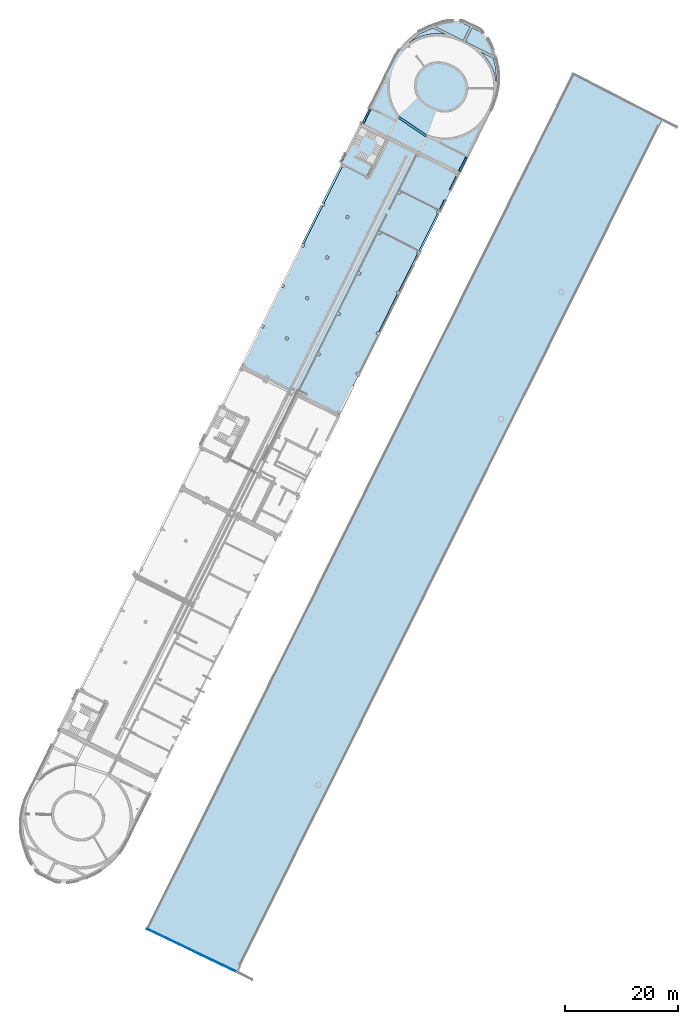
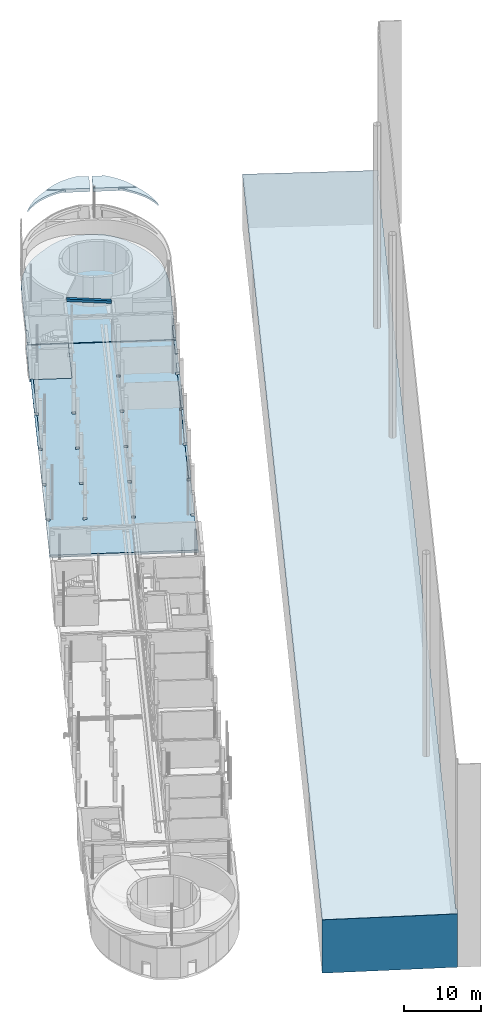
# One storey, part 3 of 91: 18 slabs, 1 wall, 10 openings, 1 element without a shape of its own.
"""IFC2X3 building model written with IfcOpenShell, lengths in metres."""

from ifc_helpers import new_model, entity, si_unit, converted_unit, derived_unit, direction, frame, frame_2d, origin, origin_2d_with_axis, place, context, subcontext, project, spatial, polyline, circle_curve, parameter, trimmed, segment, composite_curve, rectangle, circle, outline, extrude, material, layer, layer_set, layer_usage, type_object, element, aggregate, save


model = new_model("IFC2X3")

# Units and contexts
model_context = context("Model", 3, precision=1e-05, world=origin(), true_north=direction((0.894925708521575, 0.446215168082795)))
context_of_model = context(None, 3, precision=1e-05, world=origin(), true_north=direction((0.894925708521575, 0.446215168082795)))
body_context = subcontext(model_context, "Body", "Model", "MODEL_VIEW")
ifc_project = project(units=[si_unit("LENGTHUNIT", "METRE"), si_unit("AREAUNIT", "SQUARE_METRE"), si_unit("VOLUMEUNIT", "CUBIC_METRE"), converted_unit("PLANEANGLEUNIT", "DEGREE", entity("IfcRatioMeasure", 0.0174532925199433), si_unit("PLANEANGLEUNIT", "RADIAN"), dimensions=[0, 0, 0, 0, 0, 0, 0]), si_unit("MASSUNIT", "GRAM", prefix="KILO"), si_unit("TIMEUNIT", "SECOND"), si_unit("FREQUENCYUNIT", "HERTZ"), si_unit("THERMODYNAMICTEMPERATUREUNIT", "DEGREE_CELSIUS"), derived_unit("THERMALTRANSMITTANCEUNIT", [(si_unit("MASSUNIT", "GRAM", prefix="KILO"), 1), (si_unit("THERMODYNAMICTEMPERATUREUNIT", "KELVIN"), -1), (si_unit("TIMEUNIT", "SECOND"), -3)]), derived_unit("VOLUMETRICFLOWRATEUNIT", [(si_unit("LENGTHUNIT", "METRE"), 3), (si_unit("TIMEUNIT", "SECOND"), -1)]), si_unit("ELECTRICCURRENTUNIT", "AMPERE"), si_unit("ELECTRICVOLTAGEUNIT", "VOLT"), si_unit("POWERUNIT", "WATT"), si_unit("FORCEUNIT", "NEWTON", prefix="KILO"), si_unit("ILLUMINANCEUNIT", "LUX"), si_unit("LUMINOUSFLUXUNIT", "LUMEN"), si_unit("LUMINOUSINTENSITYUNIT", "CANDELA"), si_unit("PRESSUREUNIT", "PASCAL")], contexts=[model_context, context_of_model])

# Site, building, storey
site_placement = place(None, frame((218.228324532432, 584.720189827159, 0.0), z_axis=(0.0, 0.0, 1.0), x_axis=(0.446215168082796, 0.894925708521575, 0.0)))
site = spatial("IfcSite", under=ifc_project, at=site_placement, Name="Default", CompositionType="ELEMENT")
building_placement = place(site_placement, origin())
building = spatial("IfcBuilding", under=site, at=building_placement, CompositionType="ELEMENT")
storey_placement = place(building_placement, origin())
storey = spatial("IfcBuildingStorey", under=building, at=storey_placement, Name="0 - Piano Terra", CompositionType="ELEMENT", Elevation=0.0)

# Slab
ifc_material_1 = material(Name="Default - Calcestruzzo")
ifc_layer_1 = layer(ifc_material_1, 0.1)
ifc_material_2 = material(Name="Calcestruzzo")
ifc_layer_2 = layer(ifc_material_2, 0.3)
ifc_layer_set_1 = layer_set([ifc_layer_1, ifc_layer_2], Name="Pavimento:In opera Cementizio - 40 cm")
ifc_layer_usage_1 = layer_usage(ifc_layer_set_1, "AXIS3", "POSITIVE", 0.0)
slab_1_placement = place(storey_placement, origin())
element("IfcSlab", 1, at=slab_1_placement, inside=storey, material=ifc_layer_usage_1, Name="Pavimento:In opera Cementizio - 40 cm", ObjectType="Pavimento:In opera Cementizio - 40 cm", PredefinedType="FLOOR", context=body_context, shape_type="SweptSolid", body=[
    extrude(outline(composite_curve([segment(polyline([(-9.01889683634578, -14.7948808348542), (10.3011031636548, -14.7948808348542)]), True, "CONTINUOUS"), segment(polyline([(10.3011031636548, -14.7948808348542), (10.2893573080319, -11.7248808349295)]), True, "CONTINUOUS"), segment(polyline([(10.2893573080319, -11.7248808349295), (10.3073836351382, -1.83244123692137)]), True, "CONTINUOUS"), segment(trimmed(circle_curve(frame_2d((-3.3255732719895, -2.38711425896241), x_axis=(0.999173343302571, 0.0406525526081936)), 13.6442360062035), [parameter(0.0)], [parameter(27.3171216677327)], True, "PARAMETER"), True, "CONTINUOUS"), segment(trimmed(circle_curve(frame_2d((-13.5943328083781, -11.968281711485), x_axis=(0.804597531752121, 0.59382052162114)), 27.5004859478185), [parameter(0.0)], [parameter(9.19725186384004)], True, "PARAMETER"), True, "CONTINUOUS"), segment(trimmed(circle_curve(frame_2d((-0.688846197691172, 0.095445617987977), x_axis=(0.640123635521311, 0.768271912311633)), 9.88360560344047), [parameter(0.0)], [parameter(22.9812181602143)], True, "PARAMETER"), True, "CONTINUOUS"), segment(polyline([(2.17110316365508, 9.55622515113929), (-0.888896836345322, 9.55622515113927)]), True, "CONTINUOUS"), segment(trimmed(circle_curve(frame_2d((1.73515179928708, 0.930385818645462), x_axis=(-0.29103911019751, 0.956711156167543)), 9.01613750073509), [parameter(0.0)], [parameter(27.6905051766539)], True, "PARAMETER"), True, "CONTINUOUS"), segment(trimmed(circle_curve(frame_2d((7.06228266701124, -5.23909267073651), x_axis=(-0.679516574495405, 0.733660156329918)), 17.1578390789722), [parameter(0.0)], [parameter(12.4245865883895)], True, "PARAMETER"), True, "CONTINUOUS"), segment(trimmed(circle_curve(frame_2d((3.22910405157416, -2.19182218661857), x_axis=(-0.835915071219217, 0.54885881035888)), 12.2753762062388), [parameter(0.0)], [parameter(7.874230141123)], True, "PARAMETER"), True, "CONTINUOUS"), segment(trimmed(circle_curve(frame_2d((3.18382790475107, -1.81184527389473), x_axis=(-0.914408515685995, 0.40479262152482)), 12.0757504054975), [parameter(0.0)], [parameter(17.8644285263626)], True, "PARAMETER"), True, "CONTINUOUS"), segment(trimmed(circle_curve(frame_2d((14.2256108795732, -3.85800120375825), x_axis=(-0.989839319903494, 0.142190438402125)), 23.2876977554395), [parameter(0.0)], [parameter(4.68455411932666)], True, "PARAMETER"), True, "CONTINUOUS"), segment(polyline([(-9.01889683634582, -2.44035251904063), (-9.01889683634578, -14.7948808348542)]), True, "CONTINUOUS")], self_intersect=False)), frame((73.760817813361, -4.18218215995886, 0.0), z_axis=(0.0, 0.0, -1.0), x_axis=(0.0, 1.0, 0.0)), (0.0, 0.0, 1.0), 0.4),
])

# Slab, openings
ifc_layer_usage_2 = layer_usage(ifc_layer_set_1, "AXIS3", "POSITIVE", 0.0)
slab_2_placement = place(storey_placement, frame((11.1942149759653, -13.2010789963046, -0.4)))
slab_2 = element("IfcSlab", 2, at=slab_2_placement, inside=storey, material=ifc_layer_usage_2, Name="Pavimento:In opera Cementizio - 40 cm", ObjectType="Pavimento:In opera Cementizio - 40 cm", PredefinedType="FLOOR", context=body_context, shape_type="SweptSolid", body=[
    extrude(outline(polyline([(-23.8208610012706, 4.34000000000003), (-23.8208610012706, -9.66000000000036), (-16.4032670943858, -9.66000000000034), (-16.4032670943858, -9.16000000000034), (-15.8832670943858, -9.16000000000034), (-15.8832670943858, -9.66000000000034), (-8.40452638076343, -9.66000000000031), (-8.40452638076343, -9.16000000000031), (-7.88452638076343, -9.16000000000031), (-7.88452638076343, -9.66000000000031), (-0.41142013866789, -9.66000000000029), (-0.41142013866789, -9.16000000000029), (0.108579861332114, -9.16000000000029), (0.108579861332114, -9.66000000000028), (7.58603086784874, -9.66000000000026), (7.58603086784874, -9.16000000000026), (8.10603086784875, -9.16000000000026), (8.10603086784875, -9.66000000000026), (15.5792464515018, -9.66000000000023), (15.5792464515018, -9.16000000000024), (16.0992464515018, -9.16000000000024), (16.0992464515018, -9.66000000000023), (23.8208610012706, -9.66000000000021), (23.8208610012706, 9.66000000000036), (16.0992464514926, 9.66000000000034), (16.0992464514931, 9.16000000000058), (15.5792464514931, 9.16000000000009), (15.5792464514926, 9.66000000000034), (8.10603086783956, 9.66000000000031), (8.10603086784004, 9.16000000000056), (7.58603086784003, 9.16000000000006), (7.58603086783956, 9.66000000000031), (0.108579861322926, 9.66000000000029), (0.108579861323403, 9.16000000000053), (-0.4114201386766, 9.16000000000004), (-0.411420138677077, 9.66000000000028), (-7.88452638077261, 9.66000000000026), (-7.88452638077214, 9.16000000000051), (-8.40452638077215, 9.16000000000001), (-8.40452638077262, 9.66000000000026), (-15.9908610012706, 9.66000000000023), (-15.9908610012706, 4.34000000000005), (-23.8208610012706, 4.34000000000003)])), frame((23.8208610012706, 9.66000000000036, 0.4), z_axis=(0.0, 0.0, -1.0), x_axis=(-1.0, 0.0, 0.0)), (0.0, 0.0, 1.0), 0.4),
])
opening_1_placement = place(slab_2_placement, frame((7.98161454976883, 7.95000000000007, 0.4)))
element("IfcOpeningElement", 3, at=opening_1_placement, cuts=slab_2, Name="Pavimento:In opera Cementizio - 40 cm:2", ObjectType="Opening", context=body_context, shape_type="SweptSolid", body=[
    extrude(rectangle(XDim=0.500000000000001, YDim=0.499999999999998, at=origin_2d_with_axis()), frame((0.0, 0.0, 0.0), z_axis=(0.0, 0.0, -1.0), x_axis=(-1.0, 0.0, 0.0)), (0.0, 0.0, 1.0), 0.4),
])
opening_2_placement = place(slab_2_placement, frame((15.9748301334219, 7.95000000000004, 0.4)))
element("IfcOpeningElement", 4, at=opening_2_placement, cuts=slab_2, Name="Pavimento:In opera Cementizio - 40 cm:3", ObjectType="Opening", context=body_context, shape_type="SweptSolid", body=[
    extrude(rectangle(XDim=0.499999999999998, YDim=0.499999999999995, at=origin_2d_with_axis()), frame((0.0, 0.0, 0.0), z_axis=(0.0, 0.0, -1.0), x_axis=(0.0, 1.0, 0.0)), (0.0, 0.0, 1.0), 0.4),
])
opening_3_placement = place(slab_2_placement, frame((23.9722811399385, 7.95000000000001, 0.4)))
element("IfcOpeningElement", 5, at=opening_3_placement, cuts=slab_2, Name="Pavimento:In opera Cementizio - 40 cm:4", ObjectType="Opening", context=body_context, shape_type="SweptSolid", body=[
    extrude(rectangle(XDim=0.499999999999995, YDim=0.499999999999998, at=origin_2d_with_axis()), frame((0.0, 0.0, 0.0), z_axis=(0.0, 0.0, -1.0), x_axis=(-1.0, 0.0, 0.0)), (0.0, 0.0, 1.0), 0.4),
])
opening_4_placement = place(slab_2_placement, frame((31.9653873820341, 7.94999999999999, 0.4)))
element("IfcOpeningElement", 6, at=opening_4_placement, cuts=slab_2, Name="Pavimento:In opera Cementizio - 40 cm:5", ObjectType="Opening", context=body_context, shape_type="SweptSolid", body=[
    extrude(rectangle(XDim=0.500000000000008, YDim=0.499999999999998, at=origin_2d_with_axis()), frame((0.0, 0.0, 0.0), z_axis=(0.0, 0.0, -1.0), x_axis=(-1.0, 0.0, 0.0)), (0.0, 0.0, 1.0), 0.4),
])
opening_5_placement = place(slab_2_placement, frame((39.9641280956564, 7.94999999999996, 0.4)))
element("IfcOpeningElement", 7, at=opening_5_placement, cuts=slab_2, Name="Pavimento:In opera Cementizio - 40 cm:6", ObjectType="Opening", context=body_context, shape_type="SweptSolid", body=[
    extrude(rectangle(XDim=0.499999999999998, YDim=0.500000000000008, at=origin_2d_with_axis()), frame((0.0, 0.0, 0.0), z_axis=(0.0, 0.0, -1.0), x_axis=(0.0, 1.0, 0.0)), (0.0, 0.0, 1.0), 0.4),
])
opening_6_placement = place(slab_2_placement, frame((31.9653873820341, 14.2500000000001, 0.4)))
element("IfcOpeningElement", 8, at=opening_6_placement, cuts=slab_2, Name="Pavimento:In opera Cementizio - 40 cm:7", ObjectType="Opening", context=body_context, shape_type="SweptSolid", body=[
    extrude(rectangle(XDim=0.500000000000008, YDim=0.5, at=origin_2d_with_axis()), frame((0.0, 0.0, 0.0), z_axis=(0.0, 0.0, -1.0), x_axis=(-1.0, 0.0, 0.0)), (0.0, 0.0, 1.0), 0.4),
])
opening_7_placement = place(slab_2_placement, frame((23.9722811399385, 14.2500000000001, 0.4)))
element("IfcOpeningElement", 9, at=opening_7_placement, cuts=slab_2, Name="Pavimento:In opera Cementizio - 40 cm:8", ObjectType="Opening", context=body_context, shape_type="SweptSolid", body=[
    extrude(rectangle(XDim=0.499999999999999, YDim=0.5, at=origin_2d_with_axis()), frame((0.0, 0.0, 0.0), z_axis=(0.0, 0.0, -1.0), x_axis=(-1.0, 0.0, 0.0)), (0.0, 0.0, 1.0), 0.4),
])
opening_8_placement = place(slab_2_placement, frame((15.9748301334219, 14.2500000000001, 0.4)))
element("IfcOpeningElement", 10, at=opening_8_placement, cuts=slab_2, Name="Pavimento:In opera Cementizio - 40 cm:9", ObjectType="Opening", context=body_context, shape_type="SweptSolid", body=[
    extrude(rectangle(XDim=0.499999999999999, YDim=0.5, at=origin_2d_with_axis()), frame((0.0, 0.0, 0.0), z_axis=(0.0, 0.0, -1.0), x_axis=(-1.0, 0.0, 0.0)), (0.0, 0.0, 1.0), 0.4),
])
opening_9_placement = place(slab_2_placement, frame((7.98161454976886, 14.2500000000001, 0.4)))
element("IfcOpeningElement", 11, at=opening_9_placement, cuts=slab_2, Name="Pavimento:In opera Cementizio - 40 cm:10", ObjectType="Opening", context=body_context, shape_type="SweptSolid", body=[
    extrude(rectangle(XDim=0.5, YDim=0.499999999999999, at=origin_2d_with_axis()), frame((0.0, 0.0, 0.0), z_axis=(0.0, 0.0, -1.0), x_axis=(0.0, -1.0, 0.0)), (0.0, 0.0, 1.0), 0.4),
])

# Slabs
ifc_layer_3 = layer(ifc_material_2, 0.3)
ifc_layer_set_2 = layer_set([ifc_layer_3], Name="Pavimento:In opera Cementizio - 30 cm")
ifc_layer_usage_3 = layer_usage(ifc_layer_set_2, "AXIS3", "POSITIVE", 0.0)
slab_3_placement = place(storey_placement, origin())
element("IfcSlab", 12, at=slab_3_placement, inside=storey, material=ifc_layer_usage_3, Name="Pavimento:In opera Cementizio - 30 cm", ObjectType="Pavimento:In opera Cementizio - 30 cm", PredefinedType="FLOOR", context=body_context, shape_type="SweptSolid", body=[
    extrude(outline(composite_curve([segment(polyline([(0.178875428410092, -1.45610155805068), (2.74937511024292, -1.45610155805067)]), True, "CONTINUOUS"), segment(trimmed(circle_curve(frame_2d((6.22425697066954, 10.6776146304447), x_axis=(-0.275314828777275, -0.961354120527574)), 12.6214845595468), [parameter(356.002577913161)], [parameter(0.0)], True, "PARAMETER"), False, "CONTINUOUS"), segment(trimmed(circle_curve(frame_2d((5.47235751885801, 7.24042450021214), x_axis=(-0.389275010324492, -0.921121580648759)), 9.14620571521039), [parameter(337.984918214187)], [parameter(0.0)], True, "PARAMETER"), False, "CONTINUOUS"), segment(trimmed(circle_curve(frame_2d((5.86635005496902, 7.1446360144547), x_axis=(-0.731900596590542, -0.681411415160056)), 9.36302873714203), [parameter(344.402865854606)], [parameter(0.0)], True, "PARAMETER"), False, "CONTINUOUS"), segment(trimmed(circle_curve(frame_2d((10.1187084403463, 7.01924736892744), x_axis=(-0.948959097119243, -0.315399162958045)), 13.2442360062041), [parameter(0.0)], [parameter(11.1524485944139)], True, "PARAMETER"), True, "CONTINUOUS"), segment(trimmed(circle_curve(frame_2d((20.3875453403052, 16.6004853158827), x_axis=(-0.804113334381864, -0.594476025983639)), 27.1003813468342), [parameter(0.0)], [parameter(5.30572090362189)], True, "PARAMETER"), True, "CONTINUOUS")], self_intersect=False)), frame((78.392950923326, 2.61095300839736, 9.64), z_axis=(0.0, 0.0, -1.0), x_axis=(0.0, -1.0, 0.0)), (0.0, 0.0, 1.0), 0.3),
])
ifc_layer_usage_4 = layer_usage(ifc_layer_set_2, "AXIS3", "POSITIVE", 0.0)
slab_4_placement = place(storey_placement, origin())
element("IfcSlab", 13, at=slab_4_placement, inside=storey, material=ifc_layer_usage_4, Name="Pavimento:In opera Cementizio - 30 cm", ObjectType="Pavimento:In opera Cementizio - 30 cm", PredefinedType="FLOOR", context=body_context, shape_type="SweptSolid", body=[
    extrude(outline(composite_curve([segment(polyline([(-3.24073570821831, -1.77684998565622), (-0.753347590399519, -1.77684998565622)]), True, "CONTINUOUS"), segment(trimmed(circle_curve(frame_2d((-13.1099581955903, 9.54744339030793), x_axis=(0.737231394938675, -0.67564034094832)), 16.7608307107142), [parameter(0.0)], [parameter(7.17351048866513)], True, "PARAMETER"), True, "CONTINUOUS"), segment(trimmed(circle_curve(frame_2d((-9.27584410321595, 6.50320686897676), x_axis=(0.828596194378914, -0.559846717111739)), 11.8753762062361), [parameter(0.0)], [parameter(8.60478970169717)], True, "PARAMETER"), True, "CONTINUOUS"), segment(trimmed(circle_curve(frame_2d((-9.23056795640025, 6.12322995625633), x_axis=(0.914594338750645, -0.404372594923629)), 11.6757504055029), [parameter(0.0)], [parameter(3.70317576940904)], True, "PARAMETER"), True, "CONTINUOUS"), segment(trimmed(circle_curve(frame_2d((-6.25839711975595, 6.7752652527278), x_axis=(0.863141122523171, -0.504962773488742)), 9.25578532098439), [parameter(345.022816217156)], [parameter(0.0)], True, "PARAMETER"), False, "CONTINUOUS"), segment(trimmed(circle_curve(frame_2d((-6.44332734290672, 7.97080263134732), x_axis=(0.652487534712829, -0.75779945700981)), 10.2602789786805), [parameter(337.458524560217)], [parameter(0.0)], True, "PARAMETER"), False, "CONTINUOUS")], self_intersect=False)), frame((78.0722024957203, -10.2289222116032, 9.64), z_axis=(0.0, 0.0, -1.0), x_axis=(0.0, -1.0, 0.0)), (0.0, 0.0, 1.0), 0.3),
])

# Slab, opening
ifc_material_3 = material(Name="Asfalto, bitume")
ifc_layer_4 = layer(ifc_material_3, 0.01)
ifc_material_4 = material(Name="Sabbia e Calcestruzzo")
ifc_layer_5 = layer(ifc_material_4, 0.18)
ifc_layer_6 = layer(ifc_material_2, 0.35)
ifc_layer_set_3 = layer_set([ifc_layer_4, ifc_layer_5, ifc_layer_6], Name="Pavimento:CA-caldana - 54 cm")
ifc_layer_usage_5 = layer_usage(ifc_layer_set_3, "AXIS3", "POSITIVE", 0.0)
slab_5_placement = place(storey_placement, frame((80.2490524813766, -9.36890352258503, 8.95)))
slab_5 = element("IfcSlab", 14, at=slab_5_placement, inside=storey, material=ifc_layer_usage_5, Name="Pavimento:CA-caldana - 54 cm", ObjectType="Pavimento:CA-caldana - 54 cm", PredefinedType="FLOOR", context=body_context, shape_type="SweptSolid", body=[
    extrude(outline(composite_curve([segment(polyline([(-1.29063946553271, 2.80891226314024), (-1.29063946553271, 1.48891226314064)]), True, "CONTINUOUS"), segment(polyline([(-1.29063946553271, 1.48891226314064), (-1.42936053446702, 1.48891226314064)]), True, "CONTINUOUS"), segment(trimmed(circle_curve(frame_2d((6.98720938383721, 4.11296089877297), x_axis=(-1.0, 0.0)), 8.81613750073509), [parameter(17.3160027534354)], [parameter(44.631099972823)], True, "PARAMETER"), True, "CONTINUOUS"), segment(trimmed(circle_curve(frame_2d((13.1566878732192, 9.44009176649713), x_axis=(-1.0, 0.0)), 16.9578390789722), [parameter(42.79520573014)], [parameter(46.246444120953)], True, "PARAMETER"), True, "CONTINUOUS"), segment(polyline([(1.42936053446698, -2.80891226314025), (1.42936053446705, 2.80891226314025)]), True, "CONTINUOUS"), segment(polyline([(1.42936053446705, 2.80891226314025), (-1.29063946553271, 2.80891226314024)]), True, "CONTINUOUS")], self_intersect=False)), frame((1.42936053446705, 2.80891226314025, 0.54), z_axis=(0.0, 0.0, -1.0), x_axis=(-1.0, 0.0, 0.0)), (0.0, 0.0, 1.0), 0.54),
])
opening_10_placement = place(slab_5_placement, frame((0.248528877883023, 5.47421070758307, 0.54)))
element("IfcOpeningElement", 15, at=opening_10_placement, cuts=slab_5, Name="Pavimento:CA-caldana - 54 cm:2", ObjectType="Opening", context=body_context, shape_type="SweptSolid", body=[
    extrude(circle(Radius=0.0600000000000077, at=origin_2d_with_axis()), frame((0.0, 0.0, 0.0), z_axis=(0.0, 0.0, -1.0), x_axis=(1.0, 0.0, 0.0)), (0.0, 0.0, 1.0), 0.54),
])

# Slabs
ifc_layer_usage_6 = layer_usage(ifc_layer_set_3, "AXIS3", "POSITIVE", 0.0)
slab_6_placement = place(storey_placement, origin())
element("IfcSlab", 16, at=slab_6_placement, inside=storey, material=ifc_layer_usage_6, Name="Pavimento:CA-caldana - 54 cm", ObjectType="Pavimento:CA-caldana - 54 cm", PredefinedType="FLOOR", context=body_context, shape_type="SweptSolid", body=[
    extrude(outline(composite_curve([segment(polyline([(-2.17395021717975, 1.55846670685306), (-2.17395021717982, -1.16153329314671)]), True, "CONTINUOUS"), segment(polyline([(-2.17395021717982, -1.16153329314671), (-0.83395021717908, -1.16153329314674)]), True, "CONTINUOUS"), segment(polyline([(-0.83395021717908, -1.16153329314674), (-0.833950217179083, -1.30038772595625)]), True, "CONTINUOUS"), segment(trimmed(circle_curve(frame_2d((-3.69389957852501, 7.95125575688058), x_axis=(0.639491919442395, -0.768797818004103)), 9.68360560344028), [parameter(337.423941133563)], [parameter(0.0)], True, "PARAMETER"), True, "CONTINUOUS"), segment(trimmed(circle_curve(frame_2d((-16.5993861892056, 20.014983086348), x_axis=(0.73685498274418, -0.676050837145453)), 27.3004859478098), [parameter(356.926774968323)], [parameter(0.0)], True, "PARAMETER"), True, "CONTINUOUS"), segment(polyline([(3.5171129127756, 1.55846670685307), (-2.17395021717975, 1.55846670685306)]), True, "CONTINUOUS")], self_intersect=False)), frame((81.8075191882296, -1.17712877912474, 9.49), z_axis=(0.0, 0.0, 1.0), x_axis=(0.0, 1.0, 0.0)), (0.0, 0.0, -1.0), 0.54),
])
ifc_layer_7 = layer(ifc_material_3, 0.01)
ifc_layer_8 = layer(ifc_material_4, 0.09)
ifc_layer_9 = layer(ifc_material_2, 0.3)
ifc_layer_set_4 = layer_set([ifc_layer_7, ifc_layer_8, ifc_layer_9], Name="Pavimento:Scala PT 40 cm")
ifc_layer_usage_7 = layer_usage(ifc_layer_set_4, "AXIS3", "POSITIVE", 0.0)
slab_7_placement = place(storey_placement, origin())
element("IfcSlab", 17, at=slab_7_placement, inside=storey, material=ifc_layer_usage_7, Name="Pavimento:Scala PT 40 cm", ObjectType="Pavimento:Scala PT 40 cm", PredefinedType="FLOOR", context=body_context, shape_type="SweptSolid", body=[
    extrude(rectangle(XDim=5.5, YDim=7.82999999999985, at=origin_2d_with_axis()), frame((54.9209369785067, 3.54892100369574, 0.0), z_axis=(0.0, 0.0, -1.0), x_axis=(0.0, 1.0, 0.0)), (0.0, 0.0, 1.0), 0.4),
])
ifc_layer_10 = layer(ifc_material_2, 0.4)
ifc_layer_set_5 = layer_set([ifc_layer_10], Name="Pavimento:Travi in opera - 40 cm")
ifc_layer_usage_8 = layer_usage(ifc_layer_set_5, "AXIS3", "POSITIVE", 0.0)
slab_8_placement = place(storey_placement, origin())
element("IfcSlab", 18, at=slab_8_placement, inside=storey, material=ifc_layer_usage_8, Name="Pavimento:Travi in opera - 40 cm", ObjectType="Pavimento:Travi in opera - 40 cm", PredefinedType="FLOOR", context=body_context, shape_type="SweptSolid", body=[
    extrude(outline(polyline([(0.184436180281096, -2.90000000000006), (0.587967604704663, -2.90000000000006), (-0.184436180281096, 2.90000000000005), (-0.587967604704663, 2.90000000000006), (0.184436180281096, -2.90000000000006)])), frame((62.6237824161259, -2.10107899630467, 4.29), z_axis=(0.0, 0.0, -1.0), x_axis=(-1.0, 0.0, 0.0)), (0.0, 0.0, 1.0), 0.4),
])

# Roof, slab
roof_placement = place(storey_placement, frame((-85.3958536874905, -41.0527172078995, 8.45)))
roof = element("IfcRoof", 19, at=roof_placement, inside=storey, Name="Tetto di base:Lamierino - 1 cm", ObjectType="Tetto di base:Lamierino - 1 cm", ShapeType="NOTDEFINED")
ifc_material_5 = material(Name="Alluminio")
ifc_layer_11 = layer(ifc_material_5, 0.005)
ifc_layer_set_6 = layer_set([ifc_layer_11], Name="Tetto di base:Lamierino - 1 cm")
slab_9_placement = place(roof_placement, origin())
slab_9 = element("IfcSlab", 20, at=slab_9_placement, material=ifc_layer_set_6, Name="Tetto di base:Lamierino - 1 cm", ObjectType="Tetto di base:Lamierino - 1 cm", PredefinedType="ROOF", context=body_context, shape_type="SweptSolid", body=[
    extrude(outline(polyline([(-84.2646993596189, -8.84781922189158), (-84.11469936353, -8.8478534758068), (-83.0033881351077, -8.84810725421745), (-83.0033452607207, -8.66035768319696), (-49.8874253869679, -8.667920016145), (29.8376015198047, -8.67744556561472), (83.085995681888, -8.67205360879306), (83.0860108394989, -8.82174294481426), (84.338137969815, -8.82161615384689), (84.5486480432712, 8.84810725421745), (62.7656550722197, 8.80781538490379), (-56.4671058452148, 8.77766675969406), (-84.5486480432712, 8.82455306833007), (-84.2646993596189, -8.84781922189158)])), frame((84.5486480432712, 8.84810725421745, 0.0)), (0.0, 0.0, 1.0), 0.00499999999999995),
])
aggregate(roof, [slab_9])

# Slabs
ifc_material_6 = material(Name="Ceramica bianca")
ifc_layer_12 = layer(ifc_material_6, 0.03)
ifc_layer_13 = layer(ifc_material_4, 0.06)
ifc_layer_set_7 = layer_set([ifc_layer_12, ifc_layer_13], Name="Pavimento:Cordolo esterno - 9 cm")
ifc_layer_usage_9 = layer_usage(ifc_layer_set_7, "AXIS3", "POSITIVE", 0.0)
slab_10_placement = place(storey_placement, origin())
element("IfcSlab", 21, at=slab_10_placement, inside=storey, material=ifc_layer_usage_9, Name="Pavimento:Cordolo esterno - 9 cm", ObjectType="Pavimento:Cordolo esterno - 9 cm", PredefinedType="FLOOR", context=body_context, shape_type="SweptSolid", body=[
    extrude(rectangle(XDim=0.33, YDim=7.47310624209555, at=frame_2d((-5.41233724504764e-16, 7.37188088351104e-14), x_axis=(1.0, 0.0))), frame((39.1630492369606, 6.00392100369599, 0.09), z_axis=(0.0, 0.0, -1.0), x_axis=(0.0, 1.0, 0.0)), (0.0, 0.0, 1.0), 0.09),
])
ifc_layer_usage_10 = layer_usage(ifc_layer_set_7, "AXIS3", "POSITIVE", 0.0)
slab_11_placement = place(storey_placement, origin())
element("IfcSlab", 22, at=slab_11_placement, inside=storey, material=ifc_layer_usage_10, Name="Pavimento:Cordolo esterno - 9 cm", ObjectType="Pavimento:Cordolo esterno - 9 cm", PredefinedType="FLOOR", context=body_context, shape_type="SweptSolid", body=[
    extrude(rectangle(XDim=0.33, YDim=7.58633462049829, at=frame_2d((-5.41233724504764e-16, 0.0), x_axis=(1.0, 0.0))), frame((47.2127696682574, 6.00392100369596, 0.09), z_axis=(0.0, 0.0, -1.0), x_axis=(0.0, 1.0, 0.0)), (0.0, 0.0, 1.0), 0.09),
])
ifc_layer_usage_11 = layer_usage(ifc_layer_set_7, "AXIS3", "POSITIVE", 0.0)
slab_12_placement = place(storey_placement, origin())
element("IfcSlab", 23, at=slab_12_placement, inside=storey, material=ifc_layer_usage_11, Name="Pavimento:Cordolo esterno - 9 cm", ObjectType="Pavimento:Cordolo esterno - 9 cm", PredefinedType="FLOOR", context=body_context, shape_type="SweptSolid", body=[
    extrude(outline(polyline([(-0.219276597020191, -1.38504782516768), (0.0595755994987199, -1.38504782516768), (0.0595373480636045, -1.3750500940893), (0.110723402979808, -1.37485425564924), (0.1107234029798, 1.37516587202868), (0.0490158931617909, 1.37492977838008), (0.0489775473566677, 1.38495217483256), (-0.2192765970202, 1.38495217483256), (-0.219276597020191, -1.38504782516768)])), frame((60.6509848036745, 6.05819760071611, 0.09), z_axis=(0.0, 0.0, -1.0), x_axis=(0.0, 1.0, 0.0)), (0.0, 0.0, 1.0), 0.09),
])
ifc_layer_usage_12 = layer_usage(ifc_layer_set_7, "AXIS3", "POSITIVE", 0.0)
slab_13_placement = place(storey_placement, origin())
element("IfcSlab", 24, at=slab_13_placement, inside=storey, material=ifc_layer_usage_12, Name="Pavimento:Cordolo esterno - 9 cm", ObjectType="Pavimento:Cordolo esterno - 9 cm", PredefinedType="FLOOR", context=body_context, shape_type="SweptSolid", body=[
    extrude(rectangle(XDim=0.330000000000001, YDim=7.47745100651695, at=frame_2d((1.09634523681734e-15, -7.7937656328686e-14), x_axis=(1.0, 0.0))), frame((31.1677706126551, -13.0860789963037, 0.09), z_axis=(0.0, 0.0, -1.0), x_axis=(0.0, 1.0, 0.0)), (0.0, 0.0, 1.0), 0.09),
])
ifc_layer_usage_13 = layer_usage(ifc_layer_set_7, "AXIS3", "POSITIVE", 0.0)
slab_14_placement = place(storey_placement, origin())
element("IfcSlab", 25, at=slab_14_placement, inside=storey, material=ifc_layer_usage_13, Name="Pavimento:Cordolo esterno - 9 cm", ObjectType="Pavimento:Cordolo esterno - 9 cm", PredefinedType="FLOOR", context=body_context, shape_type="SweptSolid", body=[
    extrude(rectangle(XDim=0.329999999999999, YDim=7.47310624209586, at=frame_2d((-1.08246744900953e-15, -7.8159700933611e-14), x_axis=(1.0, 0.0))), frame((39.1630492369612, -13.0860789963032, 0.09), z_axis=(0.0, 0.0, -1.0), x_axis=(0.0, 1.0, 0.0)), (0.0, 0.0, 1.0), 0.09),
])
ifc_layer_usage_14 = layer_usage(ifc_layer_set_7, "AXIS3", "POSITIVE", 0.0)
slab_15_placement = place(storey_placement, origin())
element("IfcSlab", 26, at=slab_15_placement, inside=storey, material=ifc_layer_usage_14, Name="Pavimento:Cordolo esterno - 9 cm", ObjectType="Pavimento:Cordolo esterno - 9 cm", PredefinedType="FLOOR", context=body_context, shape_type="SweptSolid", body=[
    extrude(rectangle(XDim=0.329999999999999, YDim=7.47874071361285, at=frame_2d((0.0, 8.65973959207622e-15), x_axis=(1.0, 0.0))), frame((47.1589727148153, -13.0860789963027, 0.09), z_axis=(0.0, 0.0, -1.0), x_axis=(0.0, 1.0, 0.0)), (0.0, 0.0, 1.0), 0.09),
])
ifc_layer_usage_15 = layer_usage(ifc_layer_set_7, "AXIS3", "POSITIVE", 0.0)
slab_16_placement = place(storey_placement, origin())
element("IfcSlab", 27, at=slab_16_placement, inside=storey, material=ifc_layer_usage_15, Name="Pavimento:Cordolo esterno - 9 cm", ObjectType="Pavimento:Cordolo esterno - 9 cm", PredefinedType="FLOOR", context=body_context, shape_type="SweptSolid", body=[
    extrude(outline(polyline([(-0.0575000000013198, -1.38499999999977), (0.222500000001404, -1.38499999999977), (0.222500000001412, 1.38500000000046), (-0.0575000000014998, 1.38500000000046), (-0.0575000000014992, 1.37499999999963), (-0.107499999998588, 1.37499999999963), (-0.107499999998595, -1.37500000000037), (-0.0575000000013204, -1.37500000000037), (-0.0575000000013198, -1.38499999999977)])), frame((60.6509369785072, -13.1435789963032, 0.09), z_axis=(0.0, 0.0, -1.0), x_axis=(0.0, 1.0, 0.0)), (0.0, 0.0, 1.0), 0.09),
])
ifc_layer_usage_16 = layer_usage(ifc_layer_set_7, "AXIS3", "POSITIVE", 0.0)
slab_17_placement = place(storey_placement, origin())
element("IfcSlab", 28, at=slab_17_placement, inside=storey, material=ifc_layer_usage_16, Name="Pavimento:Cordolo esterno - 9 cm", ObjectType="Pavimento:Cordolo esterno - 9 cm", PredefinedType="FLOOR", context=body_context, shape_type="SweptSolid", body=[
    extrude(rectangle(XDim=0.330000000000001, YDim=2.95, at=frame_2d((-1.08246744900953e-15, -4.32986979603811e-15), x_axis=(1.0, 0.0))), frame((57.0609369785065, -13.0860789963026, 0.09), z_axis=(0.0, 0.0, -1.0), x_axis=(0.0, 1.0, 0.0)), (0.0, 0.0, 1.0), 0.09),
])
ifc_layer_usage_17 = layer_usage(ifc_layer_set_7, "AXIS3", "POSITIVE", 0.0)
slab_18_placement = place(storey_placement, origin())
element("IfcSlab", 29, at=slab_18_placement, inside=storey, material=ifc_layer_usage_17, Name="Pavimento:Cordolo esterno - 9 cm", ObjectType="Pavimento:Cordolo esterno - 9 cm", PredefinedType="FLOOR", context=body_context, shape_type="SweptSolid", body=[
    extrude(rectangle(XDim=0.329999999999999, YDim=2.08759390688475, at=origin_2d_with_axis()), frame((52.4621400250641, -13.0860789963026, 0.09), z_axis=(0.0, 0.0, -1.0), x_axis=(0.0, 1.0, 0.0)), (0.0, 0.0, 1.0), 0.09),
])

# Wall
ifc_layer_14 = layer(ifc_material_5, 0.15)
ifc_layer_set_8 = layer_set([ifc_layer_14], Name="Muro di base:Rivestimento 15 cm")
ifc_layer_usage_18 = layer_usage(ifc_layer_set_8, "AXIS2", "NEGATIVE", 0.075)
wall_type = type_object("IfcWallType", Name="Muro di base:Rivestimento 15 cm", PredefinedType="STANDARD", material=ifc_layer_set_8)
wall_placement = place(storey_placement, frame((-85.0368950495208, -41.0524462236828, 0.0), z_axis=(0.0, 0.0, 1.0), x_axis=(-0.0160653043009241, 0.99987094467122, 0.0)))
element("IfcWallStandardCase", 30, at=wall_placement, inside=storey, type_object=wall_type, material=ifc_layer_usage_18, Name="Muro di base:Rivestimento 15 cm", ObjectType="Muro di base:Rivestimento 15 cm", context=body_context, shape_type="SweptSolid", body=[
    extrude(outline(polyline([(17.6732147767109, -0.0749999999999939), (17.6758754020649, 0.075000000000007), (0.00122210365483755, 0.0750000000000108), (0.0, -0.0750000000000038), (17.5231911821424, -0.0750000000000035), (17.6732147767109, -0.0749999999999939)])), origin(), (0.0, 0.0, 1.0), 8.45),
])

save(model, "model.ifc")
